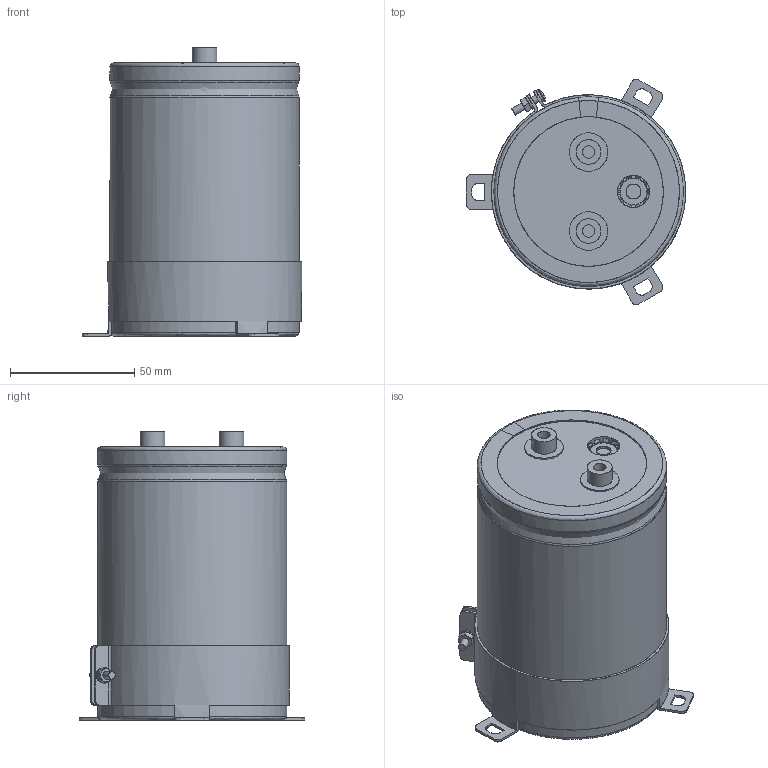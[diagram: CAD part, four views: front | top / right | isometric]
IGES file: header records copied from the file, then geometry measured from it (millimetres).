
Start section: JAMA-IS VERSION  1.0
Bounding box: 88.3 x 90.75 x 116 mm (x, y, z)
Surface area: 109295 mm2 (no closed solid volume)
Topology: 0 solids, 0 shells, 259 faces, 4448 edges, 4417 vertices
Faces by surface type: bspline 259
